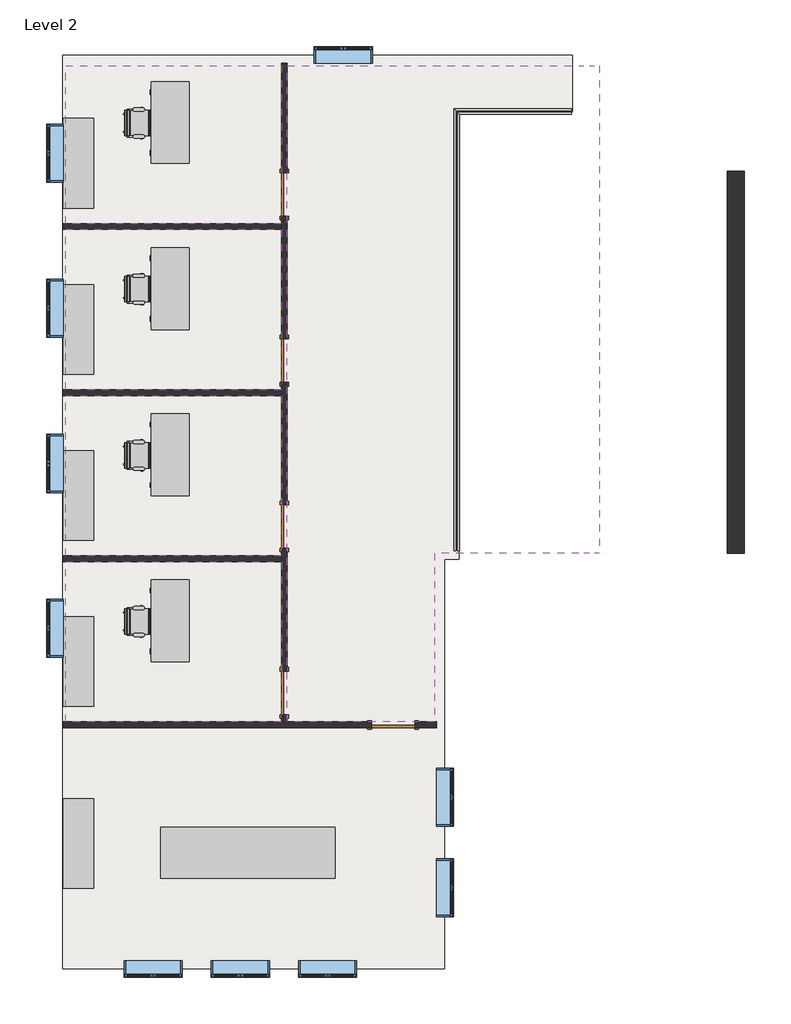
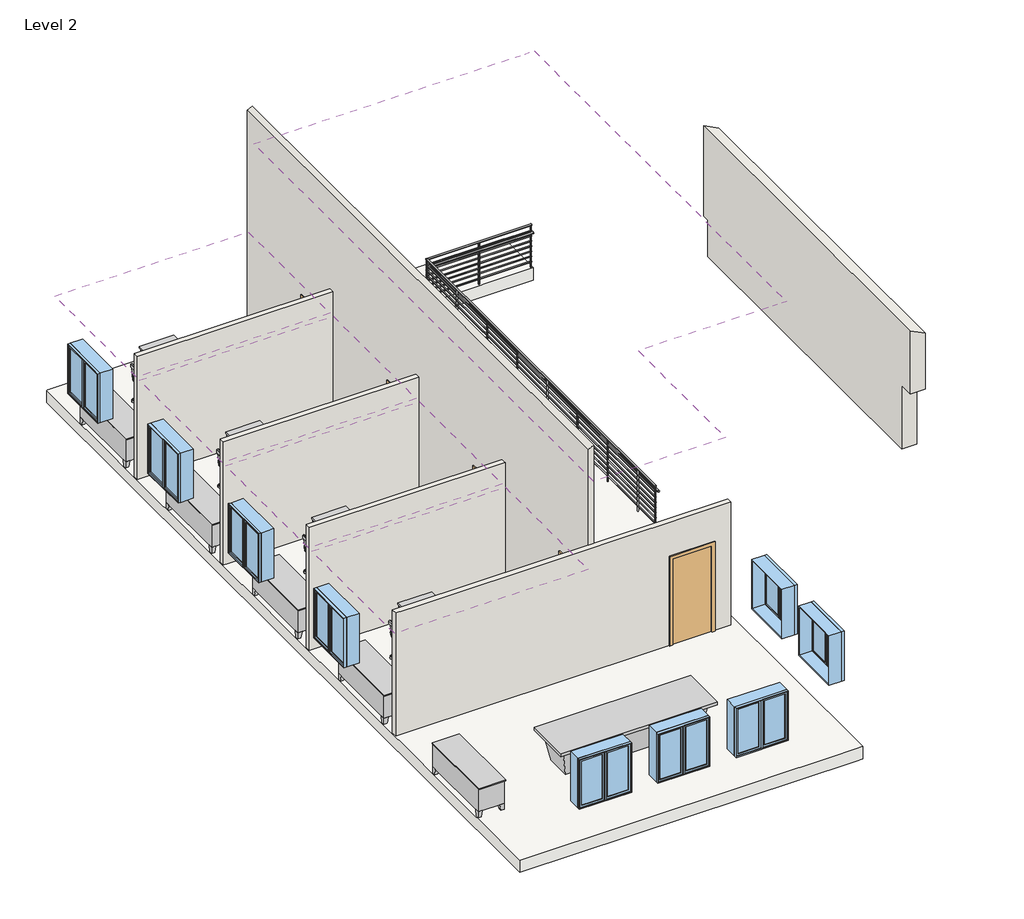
# One storey, incomplete: 14 furniture elements, 10 windows, 6 walls, 5 coverings, 5 doors, 1 railing, 1 slab.
"""IFC4 building model written with IfcOpenShell, lengths in millimetres."""

from ifc_helpers import new_model, si_unit, frame, origin, place, context, project, spatial, polyline, outline, extrude, faceted_brep, transform, mapped, element, save
from components import door_eb9f8b14, chair_task_arms_chair_task_arms_8395c10b, conference_table_complete_42_x_144_00e9c4b6, furniture_5a5a5c8e, furniture_9d33da18, guardrail_pipe_e0ddf7e3, window_75435c65

model = new_model("IFC4")

# Units and contexts
model_context = context("Model", 3, world=origin())
ifc_project = project(units=[si_unit("LENGTHUNIT", "METRE", prefix="MILLI")], contexts=[model_context])

# Site, building, storey
site = spatial("IfcSite", under=ifc_project)
building = spatial("IfcBuilding", under=site)
storey = spatial("IfcBuildingStorey", under=building, Name="Level 2", Elevation=3060.0)

# Coverings
placement = place(None, origin())
element("IfcCovering", 1, ObjectType="2' x 4' ACT System", at=placement, inside=storey, context=model_context, shape_type="SweptSolid", body=[
    extrude(outline(polyline([(-9011.7016552, 7211.1980424), (-13532.9016552, 7211.1980424), (-13532.9016552, 10517.9605424), (-9011.7016552, 10517.9605424), (-9011.7016552, 7211.1980424)])), frame((0.0, 0.0, 5498.4), z_axis=(0.0, 0.0, 1.0), x_axis=(1.0, 0.0, 0.0)), (0.0, 0.0, 1.0), 57.15),
])
element("IfcCovering", 2, ObjectType="2' x 4' ACT System", at=placement, inside=storey, context=model_context, shape_type="SweptSolid", body=[
    extrude(outline(polyline([(-9011.7016552, 3729.8105424), (-13532.9016552, 3729.8105424), (-13532.9016552, 7087.3730424), (-9011.7016552, 7087.3730424), (-9011.7016552, 3729.8105424)])), frame((0.0, 0.0, 5498.4), z_axis=(0.0, 0.0, 1.0), x_axis=(1.0, 0.0, 0.0)), (0.0, 0.0, 1.0), 57.15),
])
element("IfcCovering", 3, ObjectType="2' x 4' ACT System", at=placement, inside=storey, context=model_context, shape_type="SweptSolid", body=[
    extrude(outline(polyline([(-9011.7016552, 248.4230424), (-13532.9016552, 248.4230424), (-13532.9016552, 3605.9855424), (-9011.7016552, 3605.9855424), (-9011.7016552, 248.4230424)])), frame((0.0, 0.0, 5498.4), z_axis=(0.0, 0.0, 1.0), x_axis=(1.0, 0.0, 0.0)), (0.0, 0.0, 1.0), 57.15),
])
element("IfcCovering", 4, ObjectType="2' x 4' ACT System", at=placement, inside=storey, context=model_context, shape_type="SweptSolid", body=[
    extrude(outline(polyline([(-9011.7016552, -3232.9644576), (-13532.9016552, -3232.9644576), (-13532.9016552, 124.5980424), (-9011.7016552, 124.5980424), (-9011.7016552, -3232.9644576)])), frame((0.0, 0.0, 5498.4), z_axis=(0.0, 0.0, 1.0), x_axis=(1.0, 0.0, 0.0)), (0.0, 0.0, 1.0), 57.15),
])
element("IfcCovering", 5, ObjectType="5/8\" GWB on Mtl. Stud", at=placement, inside=storey, context=model_context, shape_type="Brep", body=[
    faceted_brep([(-2339.5447142, 10517.9605424, 7739.95), (-2772.9516552, 10517.9605424, 7739.95), (-8887.8766552, 10517.9605424, 7739.95), (-8887.8766552, -3232.9644576, 7739.95), (-5804.9516552, -3232.9644576, 7739.95), (-5804.9516552, 307.1605424, 7739.95), (-2772.9516552, 307.1605424, 7739.95), (-2339.5447142, 307.1605424, 7739.95), (-2339.5447142, 10517.9605424, 7632.0), (-2339.5447142, 307.1605424, 7632.0), (-2557.0516552, 307.1605424, 7632.0), (-5804.9516552, 307.1605424, 7632.0), (-5804.9516552, -3232.9644576, 7632.0), (-8887.8766552, -3232.9644576, 7632.0), (-8887.8766552, 10517.9605424, 7632.0), (-2557.0516552, 10517.9605424, 7632.0)], [[[0, 1, 2, 3, 4, 5, 6, 7]], [[8, 9, 10, 11, 12, 13, 14, 15]], [[2, 1, 0, 8, 15, 14]], [[3, 2, 14, 13]], [[4, 3, 13, 12]], [[5, 4, 12, 11]], [[7, 6, 5, 11, 10, 9]], [[0, 7, 9, 8]]]),
])

# Doors
door_shape = door_eb9f8b14(model_context)
element("IfcDoor", 6, ObjectType="Single-Flush : 36\" x 84\"", at=placement, inside=storey, context=model_context, shape_type="MappedRepresentation", body=[
    mapped(door_shape, transform((-6668.5516552, -3294.8769576, 3060.0), x_axis=(1.0, 0.0, 0.0), y_axis=(0.0, 1.0, 0.0), z_axis=(0.0, 0.0, 1.0))),
])
element("IfcDoor", 7, ObjectType="Single-Flush : 36\" x 84\"", at=placement, inside=storey, context=model_context, shape_type="MappedRepresentation", body=[
    mapped(door_shape, transform((-8949.7891552, -2623.3644576, 3060.0), x_axis=(0.0, -1.0, 0.0), y_axis=(1.0, 0.0, 0.0), z_axis=(0.0, 0.0, 1.0))),
])
element("IfcDoor", 8, ObjectType="Single-Flush : 36\" x 84\"", at=placement, inside=storey, context=model_context, shape_type="MappedRepresentation", body=[
    mapped(door_shape, transform((-8949.7891552, 862.7855424, 3060.0), x_axis=(0.0, -1.0, 0.0), y_axis=(1.0, 0.0, 0.0), z_axis=(0.0, 0.0, 1.0))),
])
element("IfcDoor", 9, ObjectType="Single-Flush : 36\" x 84\"", at=placement, inside=storey, context=model_context, shape_type="MappedRepresentation", body=[
    mapped(door_shape, transform((-8949.7891552, 4339.4105424, 3060.0), x_axis=(0.0, -1.0, 0.0), y_axis=(1.0, 0.0, 0.0), z_axis=(0.0, 0.0, 1.0))),
])
element("IfcDoor", 10, ObjectType="Single-Flush : 36\" x 84\"", at=placement, inside=storey, context=model_context, shape_type="MappedRepresentation", body=[
    mapped(door_shape, transform((-8949.7891552, 7820.7980424, 3060.0), x_axis=(0.0, -1.0, 0.0), y_axis=(1.0, 0.0, 0.0), z_axis=(0.0, 0.0, 1.0))),
])

# Furniture
chair_task_arms_chair_task_arms_shape = chair_task_arms_chair_task_arms_8395c10b(model_context)
element("IfcFurniture", 11, ObjectType="Chair-Task Arms : Chair-Task Arms", at=placement, inside=storey, context=model_context, shape_type="MappedRepresentation", body=[
    mapped(chair_task_arms_chair_task_arms_shape, transform((-12048.1356286, -1267.3427772, 3060.0), x_axis=(0.0, 1.0, 0.0), y_axis=(-1.0, 0.0, 0.0), z_axis=(0.0, 0.0, 1.0))),
])
element("IfcFurniture", 12, ObjectType="Chair-Task Arms : Chair-Task Arms", at=placement, inside=storey, context=model_context, shape_type="MappedRepresentation", body=[
    mapped(chair_task_arms_chair_task_arms_shape, transform((-12048.1356286, 2214.0447228, 3060.0), x_axis=(0.0, 1.0, 0.0), y_axis=(-1.0, 0.0, 0.0), z_axis=(0.0, 0.0, 1.0))),
])
element("IfcFurniture", 13, ObjectType="Chair-Task Arms : Chair-Task Arms", at=placement, inside=storey, context=model_context, shape_type="MappedRepresentation", body=[
    mapped(chair_task_arms_chair_task_arms_shape, transform((-12048.1356286, 5695.4322228, 3060.0), x_axis=(0.0, 1.0, 0.0), y_axis=(-1.0, 0.0, 0.0), z_axis=(0.0, 0.0, 1.0))),
])
element("IfcFurniture", 14, ObjectType="Chair-Task Arms : Chair-Task Arms", at=placement, inside=storey, context=model_context, shape_type="MappedRepresentation", body=[
    mapped(chair_task_arms_chair_task_arms_shape, transform((-12048.1356286, 9176.8197228, 3060.0), x_axis=(0.0, 1.0, 0.0), y_axis=(-1.0, 0.0, 0.0), z_axis=(0.0, 0.0, 1.0))),
])
conference_table_complete_42_x_144_shape = conference_table_complete_42_x_144_00e9c4b6(model_context)
element("IfcFurniture", 15, ObjectType="Conference Table-Complete : 42 x 144", at=placement, inside=storey, context=model_context, shape_type="MappedRepresentation", body=[
    mapped(conference_table_complete_42_x_144_shape, transform((-9715.5836955, -5969.8356111, 3060.0), x_axis=(1.0, 0.0, 0.0), y_axis=(0.0, 1.0, 0.0), z_axis=(0.0, 0.0, 1.0))),
])
furniture_shape = furniture_5a5a5c8e(model_context)
element("IfcFurniture", 16, ObjectType="Credenza : 72\" x 24\"", at=placement, inside=storey, context=model_context, shape_type="MappedRepresentation", body=[
    mapped(furniture_shape, transform((-13274.3213273, -1908.6485326, 3060.0), x_axis=(0.0, -1.0, 0.0), y_axis=(1.0, 0.0, 0.0), z_axis=(0.0, 0.0, 1.0))),
])
element("IfcFurniture", 17, ObjectType="Credenza : 72\" x 24\"", at=placement, inside=storey, context=model_context, shape_type="MappedRepresentation", body=[
    mapped(furniture_shape, transform((-13274.3213273, -5718.6485326, 3060.0), x_axis=(0.0, -1.0, 0.0), y_axis=(1.0, 0.0, 0.0), z_axis=(0.0, 0.0, 1.0))),
])
element("IfcFurniture", 18, ObjectType="Credenza : 72\" x 24\"", at=placement, inside=storey, context=model_context, shape_type="MappedRepresentation", body=[
    mapped(furniture_shape, transform((-13274.3213273, 1572.7389674, 3060.0), x_axis=(0.0, -1.0, 0.0), y_axis=(1.0, 0.0, 0.0), z_axis=(0.0, 0.0, 1.0))),
])
element("IfcFurniture", 19, ObjectType="Credenza : 72\" x 24\"", at=placement, inside=storey, context=model_context, shape_type="MappedRepresentation", body=[
    mapped(furniture_shape, transform((-13274.3213273, 5054.1264674, 3060.0), x_axis=(0.0, -1.0, 0.0), y_axis=(1.0, 0.0, 0.0), z_axis=(0.0, 0.0, 1.0))),
])
element("IfcFurniture", 20, ObjectType="Credenza : 72\" x 24\"", at=placement, inside=storey, context=model_context, shape_type="MappedRepresentation", body=[
    mapped(furniture_shape, transform((-13274.3213273, 8535.5139674, 3060.0), x_axis=(0.0, -1.0, 0.0), y_axis=(1.0, 0.0, 0.0), z_axis=(0.0, 0.0, 1.0))),
])
furniture_2_shape = furniture_9d33da18(model_context)
element("IfcFurniture", 21, ObjectType="Desk1 : 66\" x 30\"", at=placement, inside=storey, context=model_context, shape_type="MappedRepresentation", body=[
    mapped(furniture_2_shape, transform((-10962.389727, -275.4519576, 3060.0), x_axis=(0.0, -1.0, 0.0), y_axis=(1.0, 0.0, 0.0), z_axis=(0.0, 0.0, 1.0))),
])
element("IfcFurniture", 22, ObjectType="Desk1 : 66\" x 30\"", at=placement, inside=storey, context=model_context, shape_type="MappedRepresentation", body=[
    mapped(furniture_2_shape, transform((-10962.389727, 3205.9355424, 3060.0), x_axis=(0.0, -1.0, 0.0), y_axis=(1.0, 0.0, 0.0), z_axis=(0.0, 0.0, 1.0))),
])
element("IfcFurniture", 23, ObjectType="Desk1 : 66\" x 30\"", at=placement, inside=storey, context=model_context, shape_type="MappedRepresentation", body=[
    mapped(furniture_2_shape, transform((-10962.389727, 6687.3230424, 3060.0), x_axis=(0.0, -1.0, 0.0), y_axis=(1.0, 0.0, 0.0), z_axis=(0.0, 0.0, 1.0))),
])
element("IfcFurniture", 24, ObjectType="Desk1 : 66\" x 30\"", at=placement, inside=storey, context=model_context, shape_type="MappedRepresentation", body=[
    mapped(furniture_2_shape, transform((-10962.389727, 10168.7105424, 3060.0), x_axis=(0.0, -1.0, 0.0), y_axis=(1.0, 0.0, 0.0), z_axis=(0.0, 0.0, 1.0))),
])

# Railing
guardrail_pipe_shape = guardrail_pipe_e0ddf7e3(model_context)
element("IfcRailing", 25, ObjectType="Guardrail - Pipe", at=placement, inside=storey, context=model_context, shape_type="MappedRepresentation", body=[
    mapped(guardrail_pipe_shape, transform((0.0, 0.0, 0.0), x_axis=(1.0, 0.0, 0.0), y_axis=(0.0, 1.0, 0.0), z_axis=(0.0, 0.0, 1.0))),
])

# Slab
element("IfcSlab", 26, ObjectType="Generic - 12\"", at=placement, inside=storey, context=model_context, shape_type="Brep", body=[
    faceted_brep([(-13596.4016552, 10733.8605424, 2755.2), (-13583.7016552, 10733.8605424, 2755.2), (-5093.7516552, 10733.8605424, 2755.2), (-2909.3516552, 10733.8605424, 2755.2), (-2909.3516552, 9554.527236, 2755.2), (-5284.2516552, 9554.527236, 2755.2), (-5284.2516552, 175.3980424, 2755.2), (-5401.7266552, 175.3980424, 2755.2), (-5589.0516552, 175.3980424, 2755.2), (-5589.0516552, -8398.6894576, 2755.2), (-5754.1516552, -8398.6894576, 2755.2), (-13596.4016552, -8398.6894576, 2755.2), (-13596.4016552, -8233.5894576, 2755.2), (-13596.4016552, 10733.8605424, 3060.0), (-13596.4016552, -8233.5894576, 3060.0), (-13596.4016552, -8398.6894576, 3060.0), (-5754.1516552, -8398.6894576, 3060.0), (-5589.0516552, -8398.6894576, 3060.0), (-5589.0516552, 175.3980424, 3060.0), (-5401.7266552, 175.3980424, 3060.0), (-5284.2516552, 175.3980424, 3060.0), (-5284.2516552, 9554.527236, 3060.0), (-2909.3516552, 9554.527236, 3060.0), (-2909.3516552, 10733.8605424, 3060.0), (-5093.7516552, 10733.8605424, 3060.0), (-13583.7016552, 10733.8605424, 3060.0)], [[[0, 1, 2, 3, 4, 5, 6, 7, 8, 9, 10, 11, 12]], [[13, 14, 15, 16, 17, 18, 19, 20, 21, 22, 23, 24, 25]], [[3, 2, 1, 0, 13, 25, 24, 23]], [[4, 3, 23, 22]], [[5, 4, 22, 21]], [[6, 5, 21, 20]], [[8, 7, 6, 20, 19, 18]], [[9, 8, 18, 17]], [[11, 10, 9, 17, 16, 15]], [[0, 12, 11, 15, 14, 13]]]),
])

# Walls
element("IfcWall", 27, ObjectType="Exterior - Brick on Mtl. Stud", at=placement, inside=storey, context=model_context, shape_type="Brep", body=[
    faceted_brep([(341.8483448, 8130.3605424, 3060.0), (341.8483448, 2791.5980424, 3060.0), (341.8483448, 300.8105424, 3060.0), (341.8483448, 300.8105424, 3900.0), (341.8483448, 300.8105424, 4627.075), (341.8483448, -51.6144576, 4627.075), (341.8483448, -51.6144576, 6182.55), (341.8483448, 300.8105424, 6182.55), (341.8483448, 8306.5730424, 6182.55), (341.8483448, 8306.5730424, 3958.7375), (341.8483448, 8130.3605424, 3958.7375), (694.2733448, 8130.3605424, 3060.0), (694.2733448, 8130.3605424, 3958.7375), (694.2733448, 8306.5730424, 3958.7375), (694.2733448, 8306.5730424, 6006.3375), (694.2733448, -51.6144576, 6006.3375), (694.2733448, -51.6144576, 4627.075), (694.2733448, 300.8105424, 4627.075), (694.2733448, 300.8105424, 3060.0), (465.6733448, 8130.3605424, 3060.0), (545.0483448, 8130.3605424, 3060.0)], [[[0, 1, 2, 3, 4, 5, 6, 7, 8, 9, 10]], [[11, 12, 13, 14, 15, 16, 17, 18]], [[2, 1, 0, 19, 20, 11, 18]], [[8, 7, 6, 15, 14]], [[9, 8, 14, 13]], [[9, 13, 12, 10]], [[0, 10, 12, 11, 20, 19]], [[16, 5, 4, 17]], [[4, 3, 2, 18, 17]], [[6, 5, 16, 15]]]),
])
element("IfcWall", 28, ObjectType="Interior - 4 7/8\" Partition (1-hr)", at=placement, inside=storey, context=model_context, shape_type="Brep", body=[
    faceted_brep([(-8887.8766552, 4796.6105424, 3060.0), (-8887.8766552, 7363.5980424, 3060.0), (-8887.8766552, 7363.5980424, 5193.6), (-8887.8766552, 8277.9980424, 5193.6), (-8887.8766552, 8277.9980424, 3060.0), (-8887.8766552, 10568.7605424, 3060.0), (-8887.8766552, 10568.7605424, 8530.4625), (-8887.8766552, -3232.9644576, 8530.4625), (-8887.8766552, -3232.9644576, 3060.0), (-8887.8766552, -3080.5644576, 3060.0), (-8887.8766552, -3080.5644576, 5193.6), (-8887.8766552, -2166.1644576, 5193.6), (-8887.8766552, -2166.1644576, 3060.0), (-8887.8766552, 405.5855424, 3060.0), (-8887.8766552, 405.5855424, 5193.6), (-8887.8766552, 1319.9855424, 5193.6), (-8887.8766552, 1319.9855424, 3060.0), (-8887.8766552, 3882.2105424, 3060.0), (-8887.8766552, 3882.2105424, 5193.6), (-8887.8766552, 4796.6105424, 5193.6), (-9011.7016552, 7363.5980424, 5193.6), (-9011.7016552, 7363.5980424, 3060.0), (-9011.7016552, 7211.1980424, 3060.0), (-9011.7016552, 7087.3730424, 3060.0), (-9011.7016552, 4796.6105424, 3060.0), (-9011.7016552, 4796.6105424, 5193.6), (-9011.7016552, 3882.2105424, 5193.6), (-9011.7016552, 3882.2105424, 3060.0), (-9011.7016552, 3729.8105424, 3060.0), (-9011.7016552, 3605.9855424, 3060.0), (-9011.7016552, 1319.9855424, 3060.0), (-9011.7016552, 1319.9855424, 5193.6), (-9011.7016552, 405.5855424, 5193.6), (-9011.7016552, 405.5855424, 3060.0), (-9011.7016552, 248.4230424, 3060.0), (-9011.7016552, 124.5980424, 3060.0), (-9011.7016552, -2166.1644576, 3060.0), (-9011.7016552, -2166.1644576, 5193.6), (-9011.7016552, -3080.5644576, 5193.6), (-9011.7016552, -3080.5644576, 3060.0), (-9011.7016552, -3232.9644576, 3060.0), (-9011.7016552, -3232.9644576, 8468.55), (-9011.7016552, 10568.7605424, 8468.55), (-9011.7016552, 10568.7605424, 3060.0), (-9011.7016552, 8277.9980424, 3060.0), (-9011.7016552, 8277.9980424, 5193.6)], [[[0, 1, 2, 3, 4, 5, 6, 7, 8, 9, 10, 11, 12, 13, 14, 15, 16, 17, 18, 19]], [[20, 21, 22, 23, 24, 25, 26, 27, 28, 29, 30, 31, 32, 33, 34, 35, 36, 37, 38, 39, 40, 41, 42, 43, 44, 45]], [[40, 39, 9, 8]], [[36, 35, 34, 33, 13, 12]], [[30, 29, 28, 27, 17, 16]], [[44, 43, 5, 4]], [[24, 23, 22, 21, 1, 0]], [[8, 7, 41, 40]], [[10, 9, 39, 38]], [[11, 10, 38, 37]], [[12, 11, 37, 36]], [[14, 13, 33, 32]], [[15, 14, 32, 31]], [[16, 15, 31, 30]], [[18, 17, 27, 26]], [[19, 18, 26, 25]], [[0, 19, 25, 24]], [[2, 1, 21, 20]], [[3, 2, 20, 45]], [[4, 3, 45, 44]], [[7, 6, 42, 41]], [[6, 5, 43, 42]]]),
])
element("IfcWall", 29, ObjectType="Interior - 4 7/8\" Partition (1-hr)", at=placement, inside=storey, context=model_context, shape_type="Brep", body=[
    faceted_brep([(-6211.3516552, -3356.7894576, 5193.6), (-6211.3516552, -3356.7894576, 3060.0), (-5754.1516552, -3356.7894576, 3060.0), (-5754.1516552, -3356.7894576, 6100.0), (-13170.9516552, -3356.7894576, 6100.0), (-13583.7016552, -3356.7894576, 6100.0), (-13583.7016552, -3356.7894576, 3060.0), (-13170.9516552, -3356.7894576, 3060.0), (-7125.7516552, -3356.7894576, 3060.0), (-7125.7516552, -3356.7894576, 5193.6), (-5754.1516552, -3232.9644576, 3060.0), (-6211.3516552, -3232.9644576, 3060.0), (-6211.3516552, -3232.9644576, 5193.6), (-7125.7516552, -3232.9644576, 5193.6), (-7125.7516552, -3232.9644576, 3060.0), (-8887.8766552, -3232.9644576, 3060.0), (-9011.7016552, -3232.9644576, 3060.0), (-13170.9516552, -3232.9644576, 3060.0), (-13583.7016552, -3232.9644576, 3060.0), (-13583.7016552, -3232.9644576, 6100.0), (-13170.9516552, -3232.9644576, 6100.0), (-5754.1516552, -3232.9644576, 6100.0)], [[[0, 1, 2, 3, 4, 5, 6, 7, 8, 9]], [[10, 11, 12, 13, 14, 15, 16, 17, 18, 19, 20, 21]], [[2, 1, 11, 10]], [[8, 7, 6, 18, 17, 16, 15, 14]], [[5, 4, 3, 21, 20, 19]], [[12, 11, 1, 0]], [[13, 12, 0, 9]], [[14, 13, 9, 8]], [[3, 2, 10, 21]], [[6, 5, 19, 18]]]),
])
element("IfcWall", 30, ObjectType="Interior - 4 7/8\" Partition (1-hr)", at=placement, inside=storey, context=model_context, shape_type="SweptSolid", body=[
    extrude(outline(polyline([(-9011.7016552, 124.5980424), (-13583.7016552, 124.5980424), (-13583.7016552, 248.4230424), (-9011.7016552, 248.4230424), (-9011.7016552, 124.5980424)])), frame((0.0, 0.0, 3060.0), z_axis=(0.0, 0.0, 1.0), x_axis=(1.0, 0.0, 0.0)), (0.0, 0.0, 1.0), 3040.0),
])
element("IfcWall", 31, ObjectType="Interior - 4 7/8\" Partition (1-hr)", at=placement, inside=storey, context=model_context, shape_type="Brep", body=[
    faceted_brep([(-13583.7016552, 3605.9855424, 3060.0), (-13170.9516552, 3605.9855424, 3060.0), (-9011.7016552, 3605.9855424, 3060.0), (-9011.7016552, 3605.9855424, 6100.0), (-13170.9516552, 3605.9855424, 6100.0), (-13583.7016552, 3605.9855424, 6100.0), (-13583.7016552, 3729.8105424, 3060.0), (-13583.7016552, 3729.8105424, 6100.0), (-13170.9516552, 3729.8105424, 6100.0), (-9011.7016552, 3729.8105424, 6100.0), (-9011.7016552, 3729.8105424, 3060.0), (-13170.9516552, 3729.8105424, 3060.0)], [[[0, 1, 2, 3, 4, 5]], [[6, 7, 8, 9, 10, 11]], [[2, 1, 0, 6, 11, 10]], [[5, 4, 3, 9, 8, 7]], [[3, 2, 10, 9]], [[0, 5, 7, 6]]]),
])
element("IfcWall", 32, ObjectType="Interior - 4 7/8\" Partition (1-hr)", at=placement, inside=storey, context=model_context, shape_type="SweptSolid", body=[
    extrude(outline(polyline([(-9011.7016552, 7087.3730424), (-13583.7016552, 7087.3730424), (-13583.7016552, 7211.1980424), (-9011.7016552, 7211.1980424), (-9011.7016552, 7087.3730424)])), frame((0.0, 0.0, 3060.0), z_axis=(0.0, 0.0, 1.0), x_axis=(1.0, 0.0, 0.0)), (0.0, 0.0, 1.0), 3040.0),
])

# Windows
window_shape = window_75435c65(model_context)
element("IfcWindow", 33, ObjectType="Casement Double : 48\" x 48\"", at=placement, inside=storey, context=model_context, shape_type="MappedRepresentation", body=[
    mapped(window_shape, transform((-13740.8641552, -1270.8144576, 3060.0), x_axis=(0.0, 1.0, 0.0), y_axis=(-1.0, 0.0, 0.0), z_axis=(0.0, 0.0, 1.0))),
])
element("IfcWindow", 34, ObjectType="Casement Double : 48\" x 48\"", at=placement, inside=storey, context=model_context, shape_type="MappedRepresentation", body=[
    mapped(window_shape, transform((-13740.8641552, 2183.5855424, 3060.0), x_axis=(0.0, 1.0, 0.0), y_axis=(-1.0, 0.0, 0.0), z_axis=(0.0, 0.0, 1.0))),
])
element("IfcWindow", 35, ObjectType="Casement Double : 48\" x 48\"", at=placement, inside=storey, context=model_context, shape_type="MappedRepresentation", body=[
    mapped(window_shape, transform((-13740.8641552, 5434.7855424, 3060.0), x_axis=(0.0, 1.0, 0.0), y_axis=(-1.0, 0.0, 0.0), z_axis=(0.0, 0.0, 1.0))),
])
element("IfcWindow", 36, ObjectType="Casement Double : 48\" x 48\"", at=placement, inside=storey, context=model_context, shape_type="MappedRepresentation", body=[
    mapped(window_shape, transform((-13740.8641552, 8685.9855424, 3060.0), x_axis=(0.0, 1.0, 0.0), y_axis=(-1.0, 0.0, 0.0), z_axis=(0.0, 0.0, 1.0))),
])
element("IfcWindow", 37, ObjectType="Casement Double : 48\" x 48\"", at=placement, inside=storey, context=model_context, shape_type="MappedRepresentation", body=[
    mapped(window_shape, transform((-11700.9266552, -8390.7519576, 3060.0), x_axis=(-1.0, 0.0, 0.0), y_axis=(0.0, -1.0, 0.0), z_axis=(0.0, 0.0, 1.0))),
])
element("IfcWindow", 38, ObjectType="Casement Double : 48\" x 48\"", at=placement, inside=storey, context=model_context, shape_type="MappedRepresentation", body=[
    mapped(window_shape, transform((-9872.1266552, -8390.7519576, 3060.0), x_axis=(-1.0, 0.0, 0.0), y_axis=(0.0, -1.0, 0.0), z_axis=(0.0, 0.0, 1.0))),
])
element("IfcWindow", 39, ObjectType="Casement Double : 48\" x 48\"", at=placement, inside=storey, context=model_context, shape_type="MappedRepresentation", body=[
    mapped(window_shape, transform((-8043.3266552, -8390.7519576, 3060.0), x_axis=(-1.0, 0.0, 0.0), y_axis=(0.0, -1.0, 0.0), z_axis=(0.0, 0.0, 1.0))),
])
element("IfcWindow", 40, ObjectType="Casement Double : 48\" x 48\"", at=placement, inside=storey, context=model_context, shape_type="MappedRepresentation", body=[
    mapped(window_shape, transform((-5596.9891552, -6709.5894576, 3060.0), x_axis=(0.0, -1.0, 0.0), y_axis=(1.0, 0.0, 0.0), z_axis=(0.0, 0.0, 1.0))),
])
element("IfcWindow", 41, ObjectType="Casement Double : 48\" x 48\"", at=placement, inside=storey, context=model_context, shape_type="MappedRepresentation", body=[
    mapped(window_shape, transform((-5596.9891552, -4810.9394576, 3060.0), x_axis=(0.0, -1.0, 0.0), y_axis=(1.0, 0.0, 0.0), z_axis=(0.0, 0.0, 1.0))),
])
element("IfcWindow", 42, ObjectType="Casement Double : 48\" x 48\"", at=placement, inside=storey, context=model_context, shape_type="MappedRepresentation", body=[
    mapped(window_shape, transform((-7713.1266552, 10725.9230424, 3060.0), x_axis=(1.0, 0.0, 0.0), y_axis=(0.0, 1.0, 0.0), z_axis=(0.0, 0.0, 1.0))),
])

save(model, "model.ifc")
